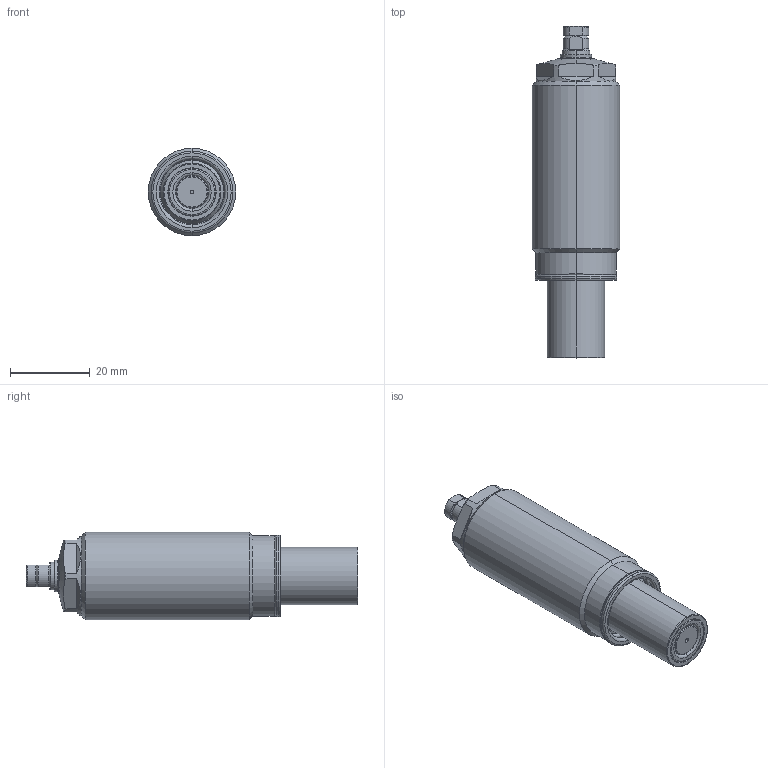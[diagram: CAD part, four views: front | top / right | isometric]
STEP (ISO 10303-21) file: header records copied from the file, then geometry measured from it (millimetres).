
FILE_DESCRIPTION(/* description */ (''),/* implementation_level */ '2;1');
FILE_NAME(/* name */ 'TSC22-Q.stp',/* time_stamp */ '2026-02-04T13:50:06+08:00',/* author */ (''),/* organization */ (''),/* preprocessor_version */ 'ST-DEVELOPER v16.7',/* originating_system */ 'SIEMENS PLM Software NX 12.0',/* authorisation */ '');
FILE_SCHEMA (('AUTOMOTIVE_DESIGN { 1 0 10303 214 3 1 1 1 }'));
Length unit declared in the file: millimetre
Products named in the file (7): XLD-M4_Oring; XLD-M4_contactbolt; TSC22-Q-01; AS568-017(90); TSC22-Q-02; TSC22-Q-03; LD0223-Q_step
Assembly tree (6 placements, depth 3):
  LD0223-Q_step
    TSC22-Q-02
    AS568-017(90)
    TSC22-Q-01
    TSC22-Q-03
      XLD-M4_contactbolt
      XLD-M4_Oring
Bounding box: 22 x 83.5 x 22 mm (x, y, z)
Volume: 23254.6 mm3; surface area: 7141.8 mm2
Topology: 5 solids, 5 shells, 177 faces, 384 edges, 227 vertices
Faces by surface type: torus 64, cylinder 44, plane 37, cone 30, sphere 2
Entity records: 5326 total; most frequent: CARTESIAN_POINT 1203, DIRECTION 948, ORIENTED_EDGE 768, AXIS2_PLACEMENT_3D 424, EDGE_CURVE 384, CIRCLE 240, VERTEX_POINT 227, EDGE_LOOP 191
